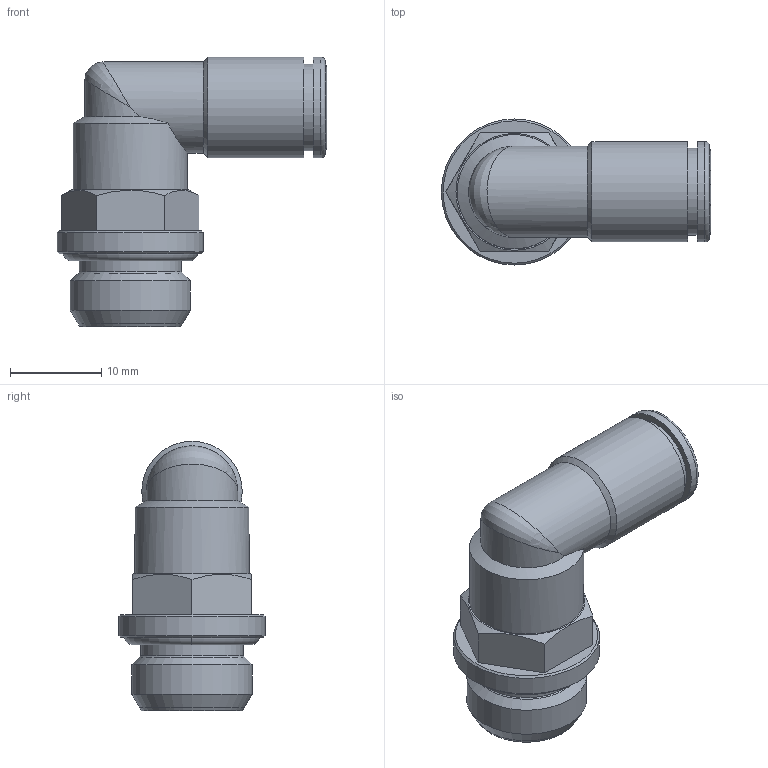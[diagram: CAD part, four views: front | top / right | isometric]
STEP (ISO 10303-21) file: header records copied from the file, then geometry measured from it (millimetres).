
FILE_DESCRIPTION(('Bauteilbeschreibung','HiCAD-Model','HiCAD-STEP-TRANSLATION','Bauteilbeschreibung'),'2;1');
FILE_NAME('B:/ABGLEICH/ZEICHNUNGEN/STEP FÜR INTERNET/STEP/202204_IPSO_022_6_1-4.STP','2011-09-19T15:17:23+00:00',('Konstrukteur'),('Konstrukteur Firma GmbH'),' HiCAD neXt 2008, Step 3.1.1401.2J ','HiCAD neXt 2008','confidential');
FILE_SCHEMA(('AUTOMOTIVE_DESIGN { 1 2 10303 214 0 1 1 1 }'));
Length unit declared in the file: millimetre
Products named in the file (7): A02204_IPSO_022_6_1_4; OR 11_11X1_78; A14603_N2_GEW__1_8_1_4; A146030N20GEW001080104; G 1_4; R202203_N2; DR6_1_NEU
Assembly tree (6 placements, depth 3):
  A02204_IPSO_022_6_1_4
    OR 11_11X1_78
    A14603_N2_GEW__1_8_1_4
    A146030N20GEW001080104
      G 1_4
    R202203_N2
    DR6_1_NEU
Bounding box: 29.5 x 16 x 29.5 mm (x, y, z)
Volume: 3246.5 mm3; surface area: 4682.8 mm2
Topology: 5 solids, 5 shells, 76 faces, 166 edges, 101 vertices
Faces by surface type: cone 24, cylinder 24, plane 20, torus 7, bspline 1
Full cylindrical faces by diameter (mm): 4 x1, 5.5 x1, 6 x1, 6.1 x1, 6.2 x1, 8.3 x1, 8.5 x1, 9 x3, 9.5 x1, 9.6 x1, 10 x1, 10.1 x2, 11 x2, 11.2 x1, 11.445 x2, 12.5 x1, 13.157 x1, 16 x1
Entity records: 3384 total; most frequent: CARTESIAN_POINT 1412, DIRECTION 330, ORIENTED_EDGE 192, AXIS2_PLACEMENT_3D 159, EDGE_LOOP 139, EDGE_CURVE 96, COLOUR_RGB 87, PRESENTATION_STYLE_ASSIGNMENT 87
